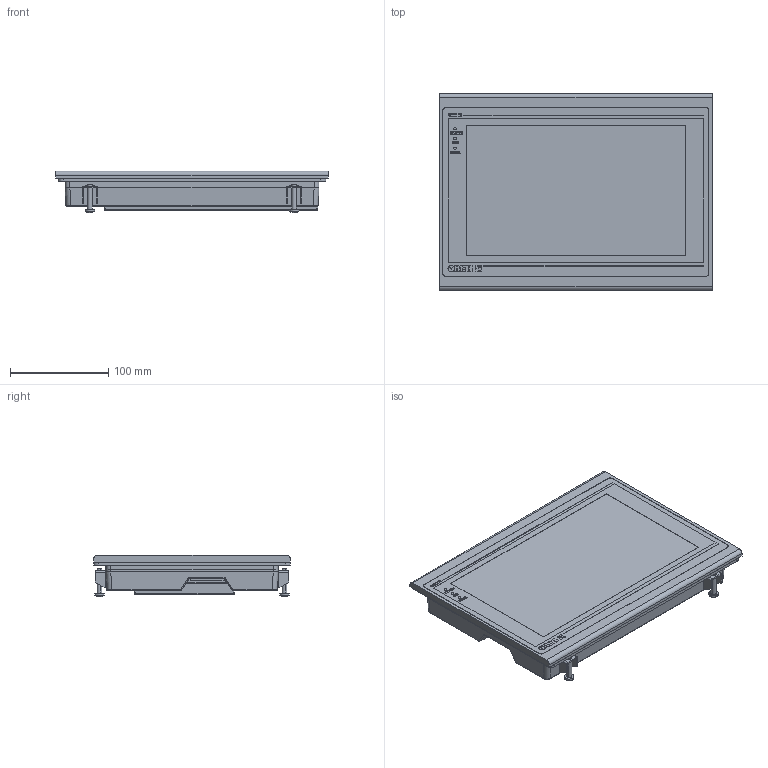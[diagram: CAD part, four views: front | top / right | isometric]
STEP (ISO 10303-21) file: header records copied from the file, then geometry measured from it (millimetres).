
FILE_DESCRIPTION (( 'STEP AP214' ), '1' );
FILE_NAME ('3D ìîäåëü ÑÏÊ110.STEP', '2017-05-29T12:36:53', ( 'adm' ), ( 'MICROSOFT' ), 'SwSTEP 2.0', 'SolidWorks 2011', '' );
FILE_SCHEMA (( 'AUTOMOTIVE_DESIGN' ));
Length unit declared in the file: millimetre
Products named in the file (12): 幄樏歑 9pin; Ïðîêëàäêà ÑÏÊ110.Ä_00; slotted pan head screw_din_ISO 1580 - M3 x 10 --- 10N; Êëåììíèê 3çåë; USB A; USB ðîçåòêà; SPK110_001F02M_00; ÑÏÊ110 Êîðïóñ çàä; ÑÏÊ110 Êîðïóñ ïåðåä; 3D ìîäåëü ÑÏÊ110; pan head cross recess screw_iso_ISO 7045 - M5 x 25 - Z --- 25N; Çàæèì ìåòàë
Assembly tree (23 placements, depth 2):
  3D ìîäåëü ÑÏÊ110
    ÑÏÊ110 Êîðïóñ ïåðåä
    ÑÏÊ110 Êîðïóñ çàä
    SPK110_001F02M_00
    USB ðîçåòêà
    USB A
    Êëåììíèê 3çåë
    slotted pan head screw_din_ISO 1580 - M3 x 10 --- 10N  x6
    Ïðîêëàäêà ÑÏÊ110.Ä_00
    幄樏歑 9pin  x2
    Çàæèì ìåòàë  x4
    pan head cross recess screw_iso_ISO 7045 - M5 x 25 - Z --- 25N  x4
Bounding box: 277 x 200 x 42.25 mm (x, y, z)
Volume: 586762.8 mm3; surface area: 406912.7 mm2
Topology: 45 solids, 45 shells, 2483 faces, 6578 edges, 4329 vertices
Faces by surface type: plane 1878, cylinder 315, bspline 214, cone 36, torus 28, sphere 12
Entity records: 84502 total; most frequent: CARTESIAN_POINT 14792, ORIENTED_EDGE 11460, DIRECTION 9530, EDGE_CURVE 5730, LINE 4778, VECTOR 4778, VERTEX_POINT 3810, AXIS2_PLACEMENT_3D 2376
